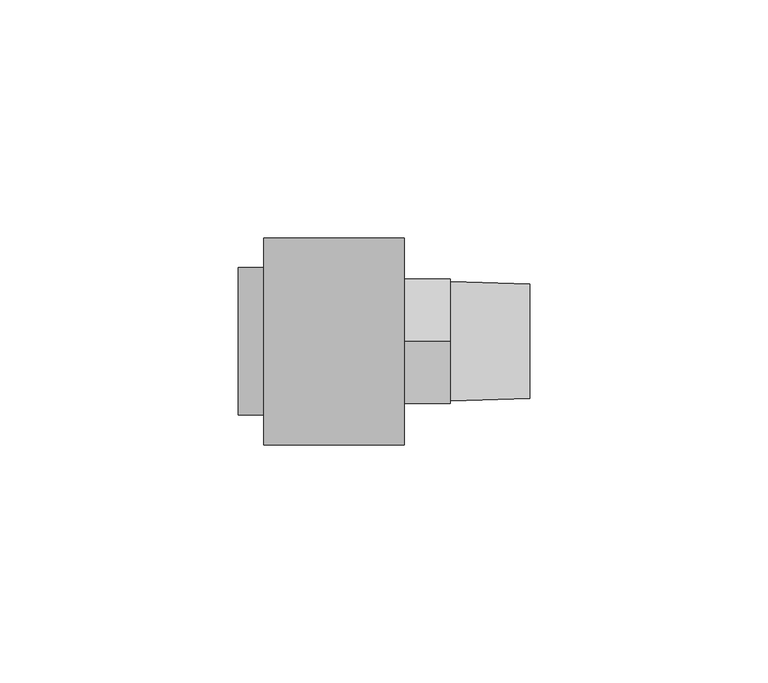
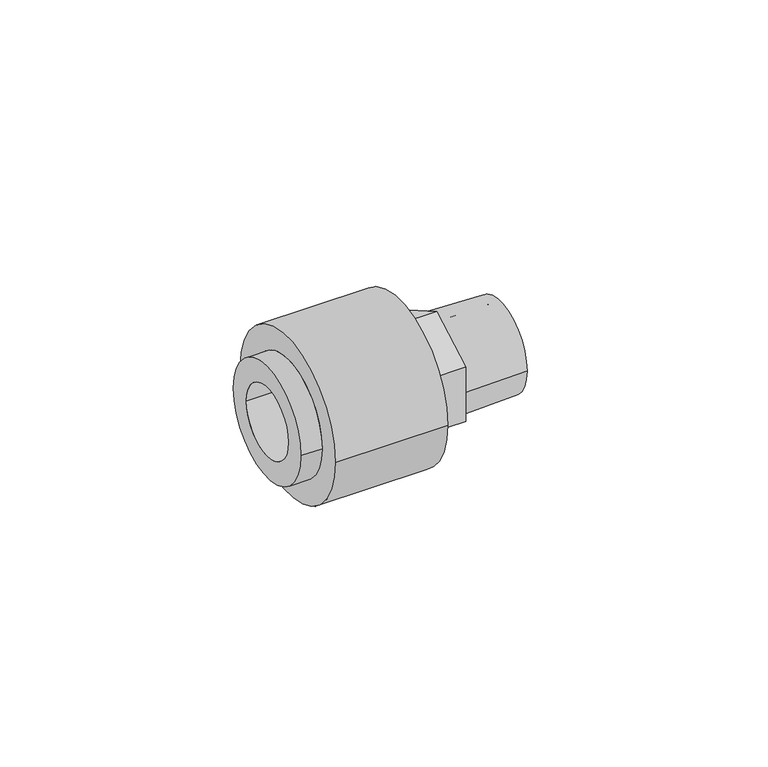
"""IFC4 building model written with IfcOpenShell, lengths in millimetres: pipe fitting geometry, Aquatherm - Fusion Outlet Transition Male : POTABLE BRASS - HEX."""

from ifc_helpers import new_model, si_unit, frame, origin, place, context, project, spatial, polyline, circle_curve, source, transform, mapped, element, save
from ifc_brep_helpers import plane_surface, cylinder_surface, revolved_surface, advanced_brep


def pipe_fitting_3c85c1dc(model_context):
    return source(origin(), model_context, "Body", "AdvancedBrep", [
        advanced_brep(
        [(9.1241563, 15.494, 0.0), (9.1241563, -15.494, 0.0), (9.1241563, 9.525, 0.0), (9.1241563, -9.525, 0.0), (29.4441563, 15.494, 0.0), (29.4441563, -15.494, 0.0), (29.4441563, 0.0, -15.1046377), (29.4441563, -13.081, -7.5523189), (29.4441563, -13.081, 7.5523189), (29.4441563, 0.0, 15.1046377), (29.4441563, 13.081, 7.5523189), (29.4441563, 13.081, -7.5523189), (29.4441563, 9.525, 0.0), (29.4441563, -9.525, 0.0), (39.0961563, 0.0, -15.1046377), (39.0961563, 13.081, -7.5523189), (39.0961563, 13.081, 7.5523189), (39.0961563, 0.0, 15.1046377), (39.0961563, -13.081, 7.5523189), (39.0961563, -13.081, -7.5523189), (39.0961563, 12.5560449, 0.0), (39.0961563, -12.5560449, 0.0), (39.0961563, 9.525, 0.0), (39.0961563, -9.525, 0.0), (55.8601563, -9.525, 0.0), (55.8601563, 9.525, 0.0), (55.8601563, -12.0502051, 0.0), (55.8601563, 12.0502051, 0.0)],
        [
            (0, 1, circle_curve(frame((9.1241563, 0.0, 0.0), z_axis=(-1.0, 0.0, 0.0), x_axis=(0.0, -1.0, 0.0)), 15.494)),
            (1, 0, circle_curve(frame((9.1241563, 0.0, 0.0), z_axis=(-1.0, 0.0, 0.0), x_axis=(0.0, -1.0, 0.0)), 15.494)),
            (2, 3, circle_curve(frame((9.1241563, 0.0, 0.0), z_axis=(1.0, 0.0, 0.0), x_axis=(0.0, -1.0, 0.0)), 9.525)),
            (3, 2, circle_curve(frame((9.1241563, 0.0, 0.0), z_axis=(1.0, 0.0, 0.0), x_axis=(0.0, -1.0, 0.0)), 9.525)),
            (4, 5, circle_curve(frame((29.4441563, 0.0, 0.0), z_axis=(1.0, 0.0, 0.0), x_axis=(0.0, -1.0, 0.0)), 15.494)),
            (5, 4, circle_curve(frame((29.4441563, 0.0, 0.0), z_axis=(1.0, 0.0, 0.0), x_axis=(0.0, -1.0, 0.0)), 15.494)),
            (6, 7),
            (7, 8),
            (8, 9),
            (9, 10),
            (10, 11),
            (11, 6),
            (0, 4),
            (5, 1),
            (2, 12),
            (12, 13, circle_curve(frame((29.4441563, 0.0, 0.0), z_axis=(1.0, 0.0, 0.0), x_axis=(0.0, -1.0, 0.0)), 9.525)),
            (13, 3),
            (13, 12, circle_curve(frame((29.4441563, 0.0, 0.0), z_axis=(1.0, 0.0, 0.0), x_axis=(0.0, -1.0, 0.0)), 9.525)),
            (14, 15),
            (15, 16),
            (16, 17),
            (17, 18),
            (18, 19),
            (19, 14),
            (20, 21, circle_curve(frame((39.0961563, 0.0, 0.0), z_axis=(-1.0, 0.0, 0.0), x_axis=(0.0, -1.0, 0.0)), 12.5560449)),
            (21, 20, circle_curve(frame((39.0961563, 0.0, 0.0), z_axis=(-1.0, 0.0, 0.0), x_axis=(0.0, -1.0, 0.0)), 12.5560449)),
            (19, 7),
            (6, 14),
            (18, 8),
            (17, 9),
            (16, 10),
            (15, 11),
            (12, 22),
            (22, 23, circle_curve(frame((39.0961563, 0.0, 0.0), z_axis=(1.0, 0.0, 0.0), x_axis=(0.0, -1.0, 0.0)), 9.525)),
            (23, 13),
            (23, 22, circle_curve(frame((39.0961563, 0.0, 0.0), z_axis=(1.0, 0.0, 0.0), x_axis=(0.0, -1.0, 0.0)), 9.525)),
            (23, 24),
            (24, 25, circle_curve(frame((55.8601563, 0.0, 0.0), z_axis=(1.0, 0.0, 0.0), x_axis=(0.0, -1.0, 0.0)), 9.525)),
            (25, 22),
            (25, 24, circle_curve(frame((55.8601563, 0.0, 0.0), z_axis=(1.0, 0.0, 0.0), x_axis=(0.0, -1.0, 0.0)), 9.525)),
            (24, 26),
            (26, 27, circle_curve(frame((55.8601563, 0.0, 0.0), z_axis=(1.0, 0.0, 0.0), x_axis=(0.0, -1.0, 0.0)), 12.0502051)),
            (27, 25),
            (27, 26, circle_curve(frame((55.8601563, 0.0, 0.0), z_axis=(1.0, 0.0, 0.0), x_axis=(0.0, -1.0, 0.0)), 12.0502051)),
            (26, 21),
            (20, 27),
        ],
        [
            plane_surface(frame((9.1241563, -15.494, 0.0), z_axis=(-1.0, 0.0, 0.0), x_axis=(0.0, 0.0, 1.0))),
            plane_surface(frame((29.4441563, -15.494, 0.0), z_axis=(1.0, 0.0, 0.0), x_axis=(0.0, 0.0, -1.0))),
            cylinder_surface(frame((29.4441563, 0.0, 0.0), z_axis=(-1.0, 0.0, 0.0), x_axis=(0.0, -1.0, 0.0)), 15.494),
            revolved_surface(polyline([(29.444156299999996, -9.525, 0.0), (9.1241563, -9.525, 0.0)]), (11.9969372, 0.0, 0.0), (1.0, 0.0, 0.0)),
            plane_surface(frame((39.0961563, 0.0, -15.1046377), z_axis=(1.0000000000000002, 0.0, 0.0), x_axis=(0.0, 0.8660254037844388, -0.49999999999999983))),
            plane_surface(frame((29.4441563, 0.0, -15.1046377), z_axis=(0.0, -0.49999999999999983, -0.8660254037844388), x_axis=(1.0, 0.0, 0.0))),
            plane_surface(frame((29.4441563, -13.081, -7.5523189), z_axis=(0.0, -1.0, 0.0), x_axis=(1.0, 0.0, 0.0))),
            plane_surface(frame((29.4441563, -13.081, 7.5523189), z_axis=(0.0, -0.4999999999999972, 0.8660254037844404), x_axis=(1.0, 0.0, 0.0))),
            plane_surface(frame((29.4441563, 0.0, 15.1046377), z_axis=(0.0, 0.500000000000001, 0.8660254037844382), x_axis=(1.0, 0.0, 0.0))),
            plane_surface(frame((29.4441563, 13.081, 7.5523189), z_axis=(0.0, 1.0, 0.0), x_axis=(1.0, 0.0, 0.0))),
            plane_surface(frame((29.4441563, 13.081, -7.5523189), z_axis=(0.0, 0.49999999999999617, -0.8660254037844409), x_axis=(1.0, 0.0, 0.0))),
            revolved_surface(polyline([(39.0961563, -9.525, 0.0), (29.4441563, -9.525, 0.0)]), (29.4441563, 0.0, 0.0), (1.0, 0.0, 0.0)),
            revolved_surface(polyline([(55.8601563, -9.525, 0.0), (39.0961563, -9.525, 0.0)]), (90.7332251, 0.0, 0.0), (1.0, 0.0, 0.0)),
            plane_surface(frame((55.8601563, 0.0, 0.0), z_axis=(1.0, 0.0, 0.0), x_axis=(0.0, -1.0, 0.0))),
            revolved_surface(polyline([(39.0961563, -12.5560449, 0.0), (55.8601563, -12.0502051, 0.0)]), (90.7332251, 0.0, 0.0), (1.0, 0.0, 0.0)),
        ],
        [
            (0, [[1, 2], [3, 4]]),
            (1, [[5, 6], [7, 8, 9, 10, 11, 12]]),
            (2, [[-1, 13, -6, 14]]),
            (2, [[-2, -14, -5, -13]]),
            (3, [[-3, 15, 16, 17]]),
            (3, [[-4, -17, 18, -15]]),
            (4, [[19, 20, 21, 22, 23, 24], [25, 26]]),
            (5, [[-24, 27, -7, 28]]),
            (6, [[-23, 29, -8, -27]]),
            (7, [[-22, 30, -9, -29]]),
            (8, [[-21, 31, -10, -30]]),
            (9, [[-20, 32, -11, -31]]),
            (10, [[-19, -28, -12, -32]]),
            (11, [[33, 34, 35, -16]]),
            (11, [[-33, -18, -35, 36]]),
            (12, [[37, 38, 39, -36]]),
            (12, [[-37, -34, -39, 40]]),
            (13, [[-38, 41, 42, 43]]),
            (13, [[-40, -43, 44, -41]]),
            (14, [[-42, 45, -25, 46]]),
            (14, [[-44, -46, -26, -45]]),
        ],
    ),
        advanced_brep(
        [(9.128125, 15.478125, 0.0), (9.128125, -15.478125, 0.0), (9.128125, 9.525, 0.0), (9.128125, -9.525, 0.0), (-5.4232432, -9.525, 0.0), (-5.4232432, 9.525, 0.0), (-5.4232432, -15.478125, 0.0), (-5.4232432, 15.478125, 0.0), (0.0, 15.478125, 0.0), (0.0, -15.478125, 0.0), (29.4441562, 21.7289063, 0.0), (29.4441562, -21.7289063, 0.0), (29.4441562, 15.478125, 0.0), (29.4441562, -15.478125, 0.0), (0.0, -21.7289063, 0.0), (0.0, 21.7289063, 0.0)],
        [
            (0, 1, circle_curve(frame((9.128125, 0.0, 0.0), z_axis=(1.0, 0.0, 0.0), x_axis=(0.0, -1.0, 0.0)), 15.478125)),
            (1, 0, circle_curve(frame((9.128125, 0.0, 0.0), z_axis=(1.0, 0.0, 0.0), x_axis=(0.0, -1.0, 0.0)), 15.478125)),
            (2, 3, circle_curve(frame((9.128125, 0.0, 0.0), z_axis=(-1.0, 0.0, 0.0), x_axis=(0.0, -1.0, 0.0)), 9.525)),
            (3, 2, circle_curve(frame((9.128125, 0.0, 0.0), z_axis=(-1.0, 0.0, 0.0), x_axis=(0.0, -1.0, 0.0)), 9.525)),
            (4, 5, circle_curve(frame((-5.4232432, 0.0, 0.0), z_axis=(-1.0, 0.0, 0.0), x_axis=(0.0, -1.0, 0.0)), 9.525)),
            (5, 2),
            (3, 4),
            (5, 4, circle_curve(frame((-5.4232432, 0.0, 0.0), z_axis=(-1.0, 0.0, 0.0), x_axis=(0.0, -1.0, 0.0)), 9.525)),
            (6, 7, circle_curve(frame((-5.4232432, 0.0, 0.0), z_axis=(1.0, 0.0, 0.0), x_axis=(0.0, -1.0, 0.0)), 15.478125)),
            (7, 8),
            (8, 9, circle_curve(frame((0.0, 0.0, 0.0), z_axis=(-1.0, 0.0, 0.0), x_axis=(0.0, -1.0, 0.0)), 15.478125)),
            (9, 6),
            (7, 6, circle_curve(frame((-5.4232432, 0.0, 0.0), z_axis=(1.0, 0.0, 0.0), x_axis=(0.0, -1.0, 0.0)), 15.478125)),
            (9, 8, circle_curve(frame((0.0, 0.0, 0.0), z_axis=(-1.0, 0.0, 0.0), x_axis=(0.0, -1.0, 0.0)), 15.478125)),
            (10, 11, circle_curve(frame((29.4441562, 0.0, 0.0), z_axis=(1.0, 0.0, 0.0), x_axis=(0.0, -1.0, 0.0)), 21.7289063)),
            (11, 10, circle_curve(frame((29.4441562, 0.0, 0.0), z_axis=(1.0, 0.0, 0.0), x_axis=(0.0, -1.0, 0.0)), 21.7289063)),
            (12, 13, circle_curve(frame((29.4441562, 0.0, 0.0), z_axis=(-1.0, 0.0, 0.0), x_axis=(0.0, -1.0, 0.0)), 15.478125)),
            (13, 12, circle_curve(frame((29.4441562, 0.0, 0.0), z_axis=(-1.0, 0.0, 0.0), x_axis=(0.0, -1.0, 0.0)), 15.478125)),
            (13, 1),
            (0, 12),
            (11, 14),
            (14, 15, circle_curve(frame((0.0, 0.0, 0.0), z_axis=(1.0, 0.0, 0.0), x_axis=(0.0, -1.0, 0.0)), 21.7289063)),
            (15, 10),
            (15, 14, circle_curve(frame((0.0, 0.0, 0.0), z_axis=(1.0, 0.0, 0.0), x_axis=(0.0, -1.0, 0.0)), 21.7289063)),
        ],
        [
            plane_surface(frame((9.128125, -9.525, 0.0), z_axis=(1.0, 0.0, 0.0), x_axis=(0.0, 0.0, 1.0))),
            revolved_surface(polyline([(9.128125, -9.525, 0.0), (-5.4232432, -9.525, 0.0)]), (9.128125, 0.0, 0.0), (1.0, 0.0, 0.0)),
            cylinder_surface(frame((0.0, 0.0, 0.0), z_axis=(-1.0, 0.0, 0.0), x_axis=(0.0, -1.0, 0.0)), 15.478125),
            plane_surface(frame((29.4441562, -15.478125, 0.0), z_axis=(1.0, 0.0, 0.0), x_axis=(0.0, 0.0, 1.0))),
            revolved_surface(polyline([(29.4441562, -15.478125, 0.0), (9.128125, -15.478125, 0.0)]), (29.4441562, 0.0, 0.0), (1.0, 0.0, 0.0)),
            cylinder_surface(frame((0.0, 0.0, 0.0), z_axis=(-1.0, 0.0, 0.0), x_axis=(0.0, -1.0, 0.0)), 21.7289063),
            plane_surface(frame((-5.4232432, -9.525, 0.0), z_axis=(-1.0, 0.0, 0.0), x_axis=(0.0, 0.0, -1.0))),
            plane_surface(frame((0.0, -15.478125, 0.0), z_axis=(-1.0, 0.0, 0.0), x_axis=(0.0, 0.0, -1.0))),
        ],
        [
            (0, [[1, 2], [3, 4]]),
            (1, [[5, 6, -4, 7]]),
            (1, [[8, -7, -3, -6]]),
            (2, [[9, 10, 11, 12]]),
            (2, [[13, -12, 14, -10]]),
            (3, [[15, 16], [17, 18]]),
            (4, [[-18, 19, -1, 20]]),
            (4, [[-17, -20, -2, -19]]),
            (5, [[-16, 21, 22, 23]]),
            (5, [[-15, -23, 24, -21]]),
            (6, [[-9, -13], [-5, -8]]),
            (7, [[-22, -24], [-11, -14]]),
        ],
    ),
    ])


if __name__ == "__main__":
    model = new_model("IFC4")
    model_context = context("Model", 3, world=origin())
    ifc_project = project(units=[si_unit("LENGTHUNIT", "METRE", prefix="MILLI")], contexts=[model_context])
    site = spatial("IfcSite", under=ifc_project)
    building = spatial("IfcBuilding", under=site)
    placement = place(None, origin())
    pipe_fitting_shape = pipe_fitting_3c85c1dc(model_context)
    element("IfcPipeFitting", 1, ObjectType="Aquatherm - Fusion Outlet Transition Male : POTABLE BRASS - HEX", at=placement, inside=building, context=model_context, shape_type="MappedRepresentation", body=[
        mapped(pipe_fitting_shape, transform((0.0, 0.0, 0.0), x_axis=(1.0, 0.0, 0.0), y_axis=(0.0, 1.0, 0.0), z_axis=(0.0, 0.0, 1.0))),
    ])
    save(model, "model.ifc")
